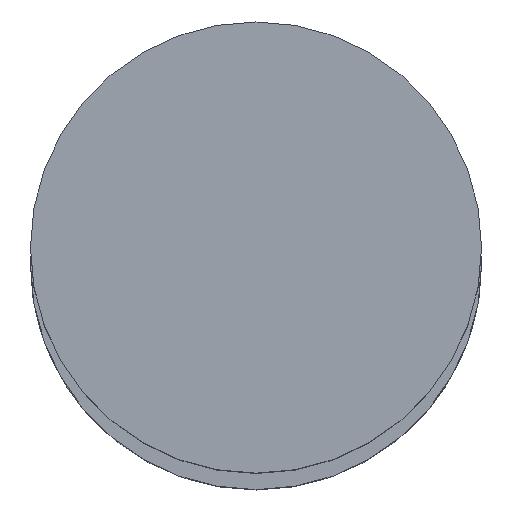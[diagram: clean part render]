
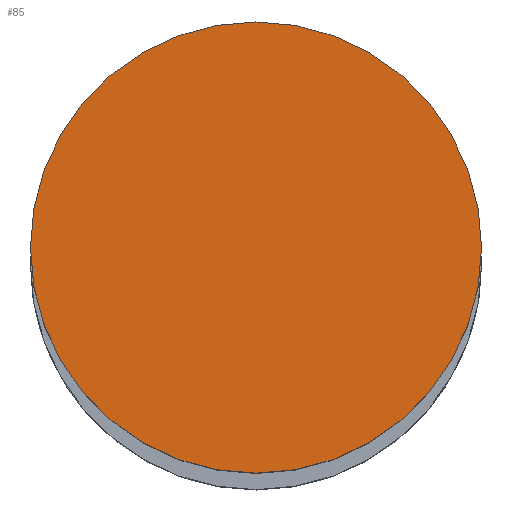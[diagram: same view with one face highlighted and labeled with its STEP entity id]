
A CAD part, top view. The second image highlights one B-rep face of the part: STEP entity #85.
In plain terms, the highlighted planar face has unit normal (0, 0, 1).
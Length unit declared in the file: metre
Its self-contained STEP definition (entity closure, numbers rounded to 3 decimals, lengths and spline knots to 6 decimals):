
#85=ADVANCED_FACE('56:4857',(#165),#166,.F.);
#165=FACE_OUTER_BOUND('',#244,.T.);
#166=PLANE('',#245);
#244=EDGE_LOOP('',(#390,#391));
#245=AXIS2_PLACEMENT_3D('',#392,#393,#394);
#390=ORIENTED_EDGE('',*,*,#433,.F.);
#391=ORIENTED_EDGE('',*,*,#478,.F.);
#392=CARTESIAN_POINT('',(-0.000092,0.000095,3.384));
#393=DIRECTION('',(0.0,0.0,-1.0));
#394=DIRECTION('',(1.0,0.0,0.0));
#433=EDGE_CURVE('27:1418',#505,#501,#507,.T.);
#478=EDGE_CURVE('',#501,#505,#572,.T.);
#501=VERTEX_POINT('',#607);
#505=VERTEX_POINT('',#612);
#507=CIRCLE('',#615,0.0155);
#572=CIRCLE('',#694,0.0155);
#607=CARTESIAN_POINT('',(0.015408,0.000095,3.384));
#612=CARTESIAN_POINT('',(-0.015592,0.000095,3.384));
#615=AXIS2_PLACEMENT_3D('',#736,#737,#738);
#694=AXIS2_PLACEMENT_3D('',#801,#802,#803);
#736=CARTESIAN_POINT('',(-0.000092,0.000095,3.384));
#737=DIRECTION('',(0.0,0.0,-1.0));
#738=DIRECTION('',(1.0,0.0,0.0));
#801=CARTESIAN_POINT('',(-0.000092,0.000095,3.384));
#802=DIRECTION('',(0.0,0.0,-1.0));
#803=DIRECTION('',(1.0,0.0,0.0));
